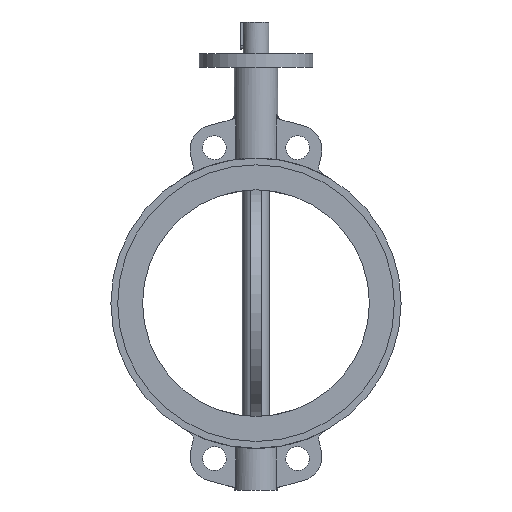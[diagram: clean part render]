
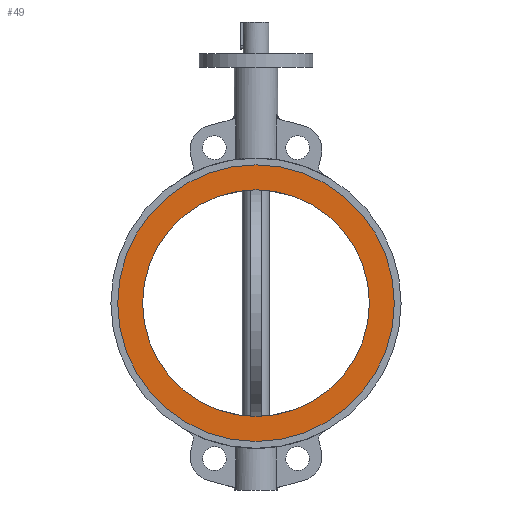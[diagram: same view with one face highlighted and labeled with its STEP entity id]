
A CAD part, left-side view. The second image highlights one B-rep face of the part: STEP entity #49.
In plain terms, the highlighted planar face has unit normal (-1, 0, 0).
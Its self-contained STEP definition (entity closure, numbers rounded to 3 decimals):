
#49=ADVANCED_FACE('',(#6080,#6082),#6084,.F.);
#6080=FACE_BOUND('',#6081,.T.);
#6081=EDGE_LOOP('',(#11656));
#6082=FACE_BOUND('',#6083,.T.);
#6083=EDGE_LOOP('',(#11657));
#6084=PLANE('',#6085);
#6085=AXIS2_PLACEMENT_3D('',#6086,#6087,#6088);
#6086=CARTESIAN_POINT('',(-34.,0.,0.));
#6087=DIRECTION('',(1.,0.,0.));
#6088=DIRECTION('',(0.,1.,0.));
#11656=ORIENTED_EDGE('',*,*,#15859,.T.);
#11657=ORIENTED_EDGE('',*,*,#15860,.T.);
#15859=EDGE_CURVE('',#17986,#17986,#17987,.F.);
#15860=EDGE_CURVE('',#17988,#17988,#17989,.T.);
#17986=VERTEX_POINT('',#21312);
#17987=CIRCLE('',#21313,152.5);
#17988=VERTEX_POINT('',#21317);
#17989=CIRCLE('',#21318,125.);
#21312=CARTESIAN_POINT('',(-34.,152.5,0.));
#21313=AXIS2_PLACEMENT_3D('',#21314,#21315,#21316);
#21314=CARTESIAN_POINT('',(-34.,0.,0.));
#21315=DIRECTION('',(1.,0.,0.));
#21316=DIRECTION('',(0.,1.,0.));
#21317=CARTESIAN_POINT('',(-34.,125.,0.));
#21318=AXIS2_PLACEMENT_3D('',#21319,#21320,#21321);
#21319=CARTESIAN_POINT('',(-34.,0.,0.));
#21320=DIRECTION('',(1.,0.,0.));
#21321=DIRECTION('',(0.,1.,0.));
